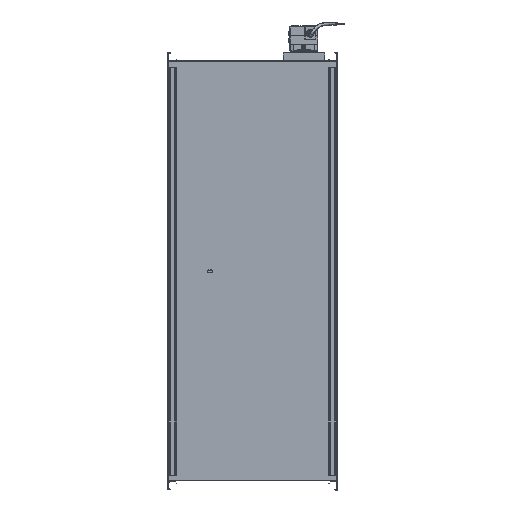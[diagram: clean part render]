
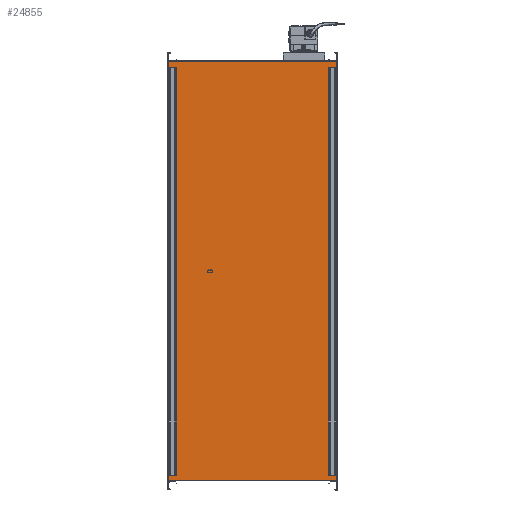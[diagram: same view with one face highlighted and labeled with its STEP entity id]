
A CAD part, front view. The second image highlights one B-rep face of the part: STEP entity #24855.
In plain terms, the highlighted planar face has unit normal (0, -1, 0).
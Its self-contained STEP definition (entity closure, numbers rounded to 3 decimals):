
#163 = DIRECTION ( 'NONE',  ( 1., 0., 0. ) ) ;
#6715 = DIRECTION ( 'NONE',  ( 1., 0., 0. ) ) ;
#7165 = CARTESIAN_POINT ( 'NONE',  ( -244.423, -435.848, 1598. ) ) ;
#8957 = ORIENTED_EDGE ( 'NONE', *, *, #22475, .F. ) ;
#11544 = EDGE_CURVE ( 'NONE', #26634, #50015, #37094, .T. ) ;
#12140 = CARTESIAN_POINT ( 'NONE',  ( 155.577, -435.848, 602. ) ) ;
#13200 = VECTOR ( 'NONE', #40398, 1000. ) ;
#15032 = CARTESIAN_POINT ( 'NONE',  ( -244.423, -435.848, 602. ) ) ;
#18735 = DIRECTION ( 'NONE',  ( 0., 0., -1. ) ) ;
#22475 = EDGE_CURVE ( 'NONE', #67193, #50015, #70920, .T. ) ;
#24855 = ADVANCED_FACE ( 'NONE', ( #71406 ), #42319, .T. ) ;
#25046 = LINE ( 'NONE', #62861, #54011 ) ;
#26634 = VERTEX_POINT ( 'NONE', #15032 ) ;
#27217 = DIRECTION ( 'NONE',  ( 0., -1., 0. ) ) ;
#28702 = EDGE_LOOP ( 'NONE', ( #8957, #80981, #40959, #76977 ) ) ;
#33886 = VERTEX_POINT ( 'NONE', #56006 ) ;
#35468 = CARTESIAN_POINT ( 'NONE',  ( -244.423, -435.848, 602. ) ) ;
#37094 = LINE ( 'NONE', #66683, #61208 ) ;
#40398 = DIRECTION ( 'NONE',  ( 0., 0., -1. ) ) ;
#40959 = ORIENTED_EDGE ( 'NONE', *, *, #46481, .T. ) ;
#42319 = PLANE ( 'NONE',  #81170 ) ;
#46481 = EDGE_CURVE ( 'NONE', #33886, #26634, #25046, .T. ) ;
#48192 = VECTOR ( 'NONE', #6715, 1000. ) ;
#50015 = VERTEX_POINT ( 'NONE', #75521 ) ;
#50871 = LINE ( 'NONE', #7165, #48192 ) ;
#54011 = VECTOR ( 'NONE', #18735, 1000. ) ;
#56006 = CARTESIAN_POINT ( 'NONE',  ( -244.423, -435.848, 1598. ) ) ;
#60266 = CARTESIAN_POINT ( 'NONE',  ( 155.577, -435.848, 1598. ) ) ;
#61208 = VECTOR ( 'NONE', #163, 1000. ) ;
#62861 = CARTESIAN_POINT ( 'NONE',  ( -244.423, -435.848, 602. ) ) ;
#65047 = DIRECTION ( 'NONE',  ( 0., 0., -1. ) ) ;
#66683 = CARTESIAN_POINT ( 'NONE',  ( -244.423, -435.848, 602. ) ) ;
#67193 = VERTEX_POINT ( 'NONE', #60266 ) ;
#70920 = LINE ( 'NONE', #12140, #13200 ) ;
#71406 = FACE_OUTER_BOUND ( 'NONE', #28702, .T. ) ;
#73147 = EDGE_CURVE ( 'NONE', #33886, #67193, #50871, .T. ) ;
#75521 = CARTESIAN_POINT ( 'NONE',  ( 155.577, -435.848, 602. ) ) ;
#76977 = ORIENTED_EDGE ( 'NONE', *, *, #11544, .T. ) ;
#80981 = ORIENTED_EDGE ( 'NONE', *, *, #73147, .F. ) ;
#81170 = AXIS2_PLACEMENT_3D ( 'NONE', #35468, #27217, #65047 ) ;
